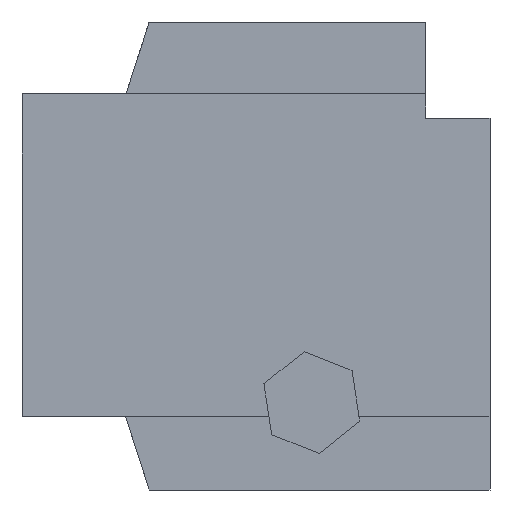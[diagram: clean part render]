
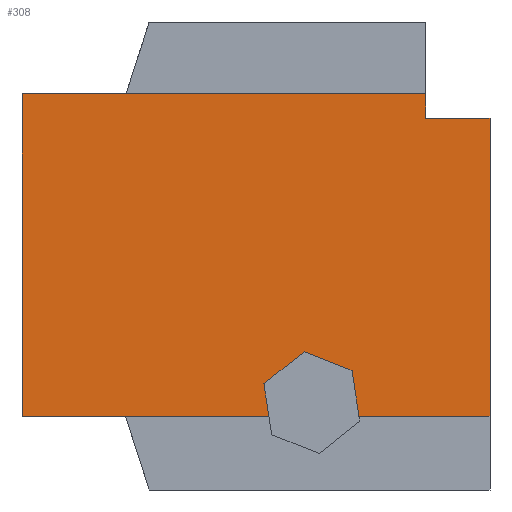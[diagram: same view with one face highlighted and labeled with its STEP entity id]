
A CAD part, front view. The second image highlights one B-rep face of the part: STEP entity #308.
In plain terms, the highlighted planar face has unit normal (0, -1, 0).
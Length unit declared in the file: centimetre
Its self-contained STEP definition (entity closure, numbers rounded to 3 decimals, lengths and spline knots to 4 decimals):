
#3 = DIRECTION ( 'NONE',  ( -1., 0., 0. ) ) ;
#11 = ORIENTED_EDGE ( 'NONE', *, *, #998, .F. ) ;
#13 = LINE ( 'NONE', #1146, #317 ) ;
#15 = VERTEX_POINT ( 'NONE', #417 ) ;
#51 = DIRECTION ( 'NONE',  ( -0.931, 0., 0.364 ) ) ;
#67 = EDGE_CURVE ( 'NONE', #1110, #15, #1002, .T. ) ;
#72 = CARTESIAN_POINT ( 'NONE',  ( 0., 0., 157.3522 ) ) ;
#83 = EDGE_CURVE ( 'NONE', #198, #89, #797, .T. ) ;
#89 = VERTEX_POINT ( 'NONE', #450 ) ;
#117 = CARTESIAN_POINT ( 'NONE',  ( 720.0628, 0., 157.3522 ) ) ;
#141 = DIRECTION ( 'NONE',  ( 0., 0., -1. ) ) ;
#153 = VECTOR ( 'NONE', #408, 100. ) ;
#154 = CARTESIAN_POINT ( 'NONE',  ( 0., 0., 1000. ) ) ;
#155 = CARTESIAN_POINT ( 'NONE',  ( 862.3035, 0., 846.3282 ) ) ;
#164 = DIRECTION ( 'NONE',  ( -1., 0., 0. ) ) ;
#187 = VECTOR ( 'NONE', #215, 100. ) ;
#198 = VERTEX_POINT ( 'NONE', #844 ) ;
#215 = DIRECTION ( 'NONE',  ( -1., 0., 0. ) ) ;
#216 = ORIENTED_EDGE ( 'NONE', *, *, #67, .F. ) ;
#221 = VECTOR ( 'NONE', #254, 100. ) ;
#223 = VECTOR ( 'NONE', #380, 100. ) ;
#226 = EDGE_CURVE ( 'NONE', #321, #1001, #13, .T. ) ;
#254 = DIRECTION ( 'NONE',  ( 1., 0., 0. ) ) ;
#267 = LINE ( 'NONE', #366, #739 ) ;
#271 = CARTESIAN_POINT ( 'NONE',  ( 516.9172, 0., 226.8732 ) ) ;
#293 = DIRECTION ( 'NONE',  ( 0.15, 0., -0.989 ) ) ;
#308 = ADVANCED_FACE ( 'NONE', ( #330 ), #1011, .F. ) ;
#312 = ORIENTED_EDGE ( 'NONE', *, *, #410, .F. ) ;
#317 = VECTOR ( 'NONE', #293, 100. ) ;
#321 = VERTEX_POINT ( 'NONE', #271 ) ;
#330 = FACE_OUTER_BOUND ( 'NONE', #1057, .T. ) ;
#338 = EDGE_CURVE ( 'NONE', #382, #1110, #832, .T. ) ;
#359 = LINE ( 'NONE', #1212, #686 ) ;
#366 = CARTESIAN_POINT ( 'NONE',  ( 1000., 0., 157.3522 ) ) ;
#375 = VECTOR ( 'NONE', #517, 100. ) ;
#380 = DIRECTION ( 'NONE',  ( -0.781, 0., -0.624 ) ) ;
#382 = VERTEX_POINT ( 'NONE', #155 ) ;
#400 = CARTESIAN_POINT ( 'NONE',  ( 1000., 0., 157.3522 ) ) ;
#402 = ORIENTED_EDGE ( 'NONE', *, *, #500, .F. ) ;
#403 = LINE ( 'NONE', #796, #153 ) ;
#405 = CARTESIAN_POINT ( 'NONE',  ( 705.1771, 0., 255.4426 ) ) ;
#408 = DIRECTION ( 'NONE',  ( -0.15, 0., 0.989 ) ) ;
#410 = EDGE_CURVE ( 'NONE', #968, #962, #267, .T. ) ;
#417 = CARTESIAN_POINT ( 'NONE',  ( 1000., 0., 794.7073 ) ) ;
#422 = CARTESIAN_POINT ( 'NONE',  ( 862.3035, 0., 794.7073 ) ) ;
#427 = DIRECTION ( 'NONE',  ( 0., 1., 0. ) ) ;
#450 = CARTESIAN_POINT ( 'NONE',  ( 602.7999, 0., 295.5039 ) ) ;
#455 = ORIENTED_EDGE ( 'NONE', *, *, #83, .F. ) ;
#500 = EDGE_CURVE ( 'NONE', #1001, #601, #674, .T. ) ;
#505 = EDGE_CURVE ( 'NONE', #89, #321, #955, .T. ) ;
#517 = DIRECTION ( 'NONE',  ( 0., 0., -1. ) ) ;
#520 = CARTESIAN_POINT ( 'NONE',  ( 0., 0., 846.3282 ) ) ;
#585 = CARTESIAN_POINT ( 'NONE',  ( 1000., 0., 157.3522 ) ) ;
#591 = CARTESIAN_POINT ( 'NONE',  ( 602.7999, 0., 295.5039 ) ) ;
#601 = VERTEX_POINT ( 'NONE', #72 ) ;
#611 = CARTESIAN_POINT ( 'NONE',  ( 527.4673, 0., 157.3522 ) ) ;
#638 = EDGE_CURVE ( 'NONE', #962, #198, #403, .T. ) ;
#641 = ORIENTED_EDGE ( 'NONE', *, *, #226, .F. ) ;
#644 = CARTESIAN_POINT ( 'NONE',  ( 862.3035, 0., 794.7073 ) ) ;
#674 = LINE ( 'NONE', #400, #187 ) ;
#675 = ORIENTED_EDGE ( 'NONE', *, *, #505, .F. ) ;
#686 = VECTOR ( 'NONE', #164, 100. ) ;
#711 = LINE ( 'NONE', #1184, #1068 ) ;
#739 = VECTOR ( 'NONE', #3, 100. ) ;
#796 = CARTESIAN_POINT ( 'NONE',  ( 721.6716, 0., 146.7506 ) ) ;
#797 = LINE ( 'NONE', #405, #1036 ) ;
#810 = DIRECTION ( 'NONE',  ( 0., 0., -1. ) ) ;
#832 = LINE ( 'NONE', #644, #375 ) ;
#844 = CARTESIAN_POINT ( 'NONE',  ( 705.1771, 0., 255.4426 ) ) ;
#863 = VERTEX_POINT ( 'NONE', #520 ) ;
#891 = CARTESIAN_POINT ( 'NONE',  ( 1000., 0., 1000. ) ) ;
#893 = ORIENTED_EDGE ( 'NONE', *, *, #1182, .T. ) ;
#908 = DIRECTION ( 'NONE',  ( 0., 0., 1. ) ) ;
#955 = LINE ( 'NONE', #591, #223 ) ;
#962 = VERTEX_POINT ( 'NONE', #117 ) ;
#968 = VERTEX_POINT ( 'NONE', #585 ) ;
#986 = CARTESIAN_POINT ( 'NONE',  ( 862.3035, 0., 794.7073 ) ) ;
#998 = EDGE_CURVE ( 'NONE', #15, #968, #1075, .T. ) ;
#1001 = VERTEX_POINT ( 'NONE', #611 ) ;
#1002 = LINE ( 'NONE', #422, #221 ) ;
#1011 = PLANE ( 'NONE',  #1038 ) ;
#1036 = VECTOR ( 'NONE', #51, 100. ) ;
#1038 = AXIS2_PLACEMENT_3D ( 'NONE', #154, #427, #908 ) ;
#1042 = ORIENTED_EDGE ( 'NONE', *, *, #638, .F. ) ;
#1044 = ORIENTED_EDGE ( 'NONE', *, *, #338, .F. ) ;
#1057 = EDGE_LOOP ( 'NONE', ( #216, #1044, #893, #1087, #402, #641, #675, #455, #1042, #312, #11 ) ) ;
#1066 = VECTOR ( 'NONE', #141, 100. ) ;
#1068 = VECTOR ( 'NONE', #810, 100. ) ;
#1075 = LINE ( 'NONE', #891, #1066 ) ;
#1087 = ORIENTED_EDGE ( 'NONE', *, *, #1115, .T. ) ;
#1110 = VERTEX_POINT ( 'NONE', #986 ) ;
#1115 = EDGE_CURVE ( 'NONE', #863, #601, #711, .T. ) ;
#1146 = CARTESIAN_POINT ( 'NONE',  ( 516.9172, 0., 226.8732 ) ) ;
#1182 = EDGE_CURVE ( 'NONE', #382, #863, #359, .T. ) ;
#1184 = CARTESIAN_POINT ( 'NONE',  ( 0., 0., 1000. ) ) ;
#1212 = CARTESIAN_POINT ( 'NONE',  ( 1000., 0., 846.3282 ) ) ;
